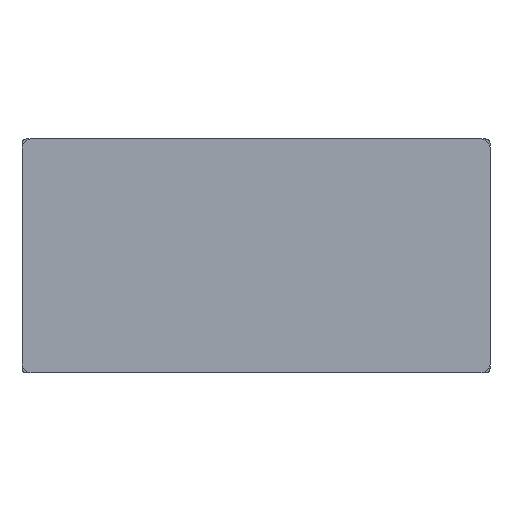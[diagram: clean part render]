
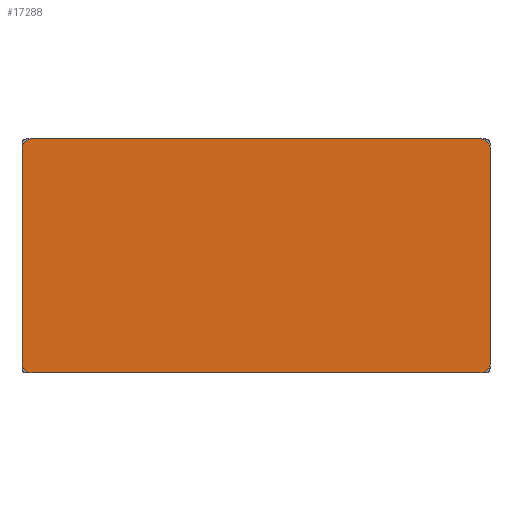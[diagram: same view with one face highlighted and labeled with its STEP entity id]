
A CAD part, front view. The second image highlights one B-rep face of the part: STEP entity #17288.
In plain terms, the highlighted planar face has unit normal (0, -1, 0).
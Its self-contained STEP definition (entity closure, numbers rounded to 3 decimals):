
#297 = CARTESIAN_POINT ( 'NONE',  ( 25.4, -1., -12.7 ) ) ;
#592 = DIRECTION ( 'NONE',  ( 0., 0., 1. ) ) ;
#736 = DIRECTION ( 'NONE',  ( 0., 0., 1. ) ) ;
#899 = AXIS2_PLACEMENT_3D ( 'NONE', #4190, #4064, #592 ) ;
#941 = VECTOR ( 'NONE', #6494, 1000. ) ;
#985 = CARTESIAN_POINT ( 'NONE',  ( -24.4, -1., 11.7 ) ) ;
#1057 = CARTESIAN_POINT ( 'NONE',  ( 25.4, -1., -11.7 ) ) ;
#1681 = CARTESIAN_POINT ( 'NONE',  ( 24.4, -1., -12.7 ) ) ;
#2624 = CARTESIAN_POINT ( 'NONE',  ( 0., -1., 0. ) ) ;
#2649 = VERTEX_POINT ( 'NONE', #23261 ) ;
#3014 = CIRCLE ( 'NONE', #5506, 1. ) ;
#3368 = ORIENTED_EDGE ( 'NONE', *, *, #9474, .T. ) ;
#3465 = VERTEX_POINT ( 'NONE', #6752 ) ;
#4064 = DIRECTION ( 'NONE',  ( 0., -1., 0. ) ) ;
#4190 = CARTESIAN_POINT ( 'NONE',  ( 24.4, -1., -11.7 ) ) ;
#5506 = AXIS2_PLACEMENT_3D ( 'NONE', #16322, #18378, #6530 ) ;
#5572 = ORIENTED_EDGE ( 'NONE', *, *, #22535, .T. ) ;
#5857 = DIRECTION ( 'NONE',  ( -1., 0., 0. ) ) ;
#6091 = VERTEX_POINT ( 'NONE', #1057 ) ;
#6234 = CARTESIAN_POINT ( 'NONE',  ( 25.4, -1., -12.7 ) ) ;
#6494 = DIRECTION ( 'NONE',  ( 0., 0., 1. ) ) ;
#6530 = DIRECTION ( 'NONE',  ( 0., 0., 1. ) ) ;
#6659 = CIRCLE ( 'NONE', #899, 1. ) ;
#6750 = CIRCLE ( 'NONE', #24417, 1. ) ;
#6752 = CARTESIAN_POINT ( 'NONE',  ( -24.4, -1., 12.7 ) ) ;
#6762 = ORIENTED_EDGE ( 'NONE', *, *, #16876, .T. ) ;
#7166 = DIRECTION ( 'NONE',  ( 0., 0., 1. ) ) ;
#7323 = VERTEX_POINT ( 'NONE', #13806 ) ;
#7499 = AXIS2_PLACEMENT_3D ( 'NONE', #985, #22725, #7166 ) ;
#7957 = CARTESIAN_POINT ( 'NONE',  ( -25.4, -1., -12.7 ) ) ;
#8760 = VERTEX_POINT ( 'NONE', #1681 ) ;
#9474 = EDGE_CURVE ( 'NONE', #8760, #6091, #6659, .T. ) ;
#10542 = CARTESIAN_POINT ( 'NONE',  ( 24.4, -1., 11.7 ) ) ;
#10985 = VERTEX_POINT ( 'NONE', #11973 ) ;
#11551 = EDGE_CURVE ( 'NONE', #16359, #3465, #22285, .T. ) ;
#11973 = CARTESIAN_POINT ( 'NONE',  ( 25.4, -1., 11.7 ) ) ;
#12053 = PLANE ( 'NONE',  #22762 ) ;
#13411 = ORIENTED_EDGE ( 'NONE', *, *, #18363, .T. ) ;
#13621 = VERTEX_POINT ( 'NONE', #22199 ) ;
#13806 = CARTESIAN_POINT ( 'NONE',  ( -24.4, -1., -12.7 ) ) ;
#16322 = CARTESIAN_POINT ( 'NONE',  ( -24.4, -1., -11.7 ) ) ;
#16359 = VERTEX_POINT ( 'NONE', #23672 ) ;
#16726 = ORIENTED_EDGE ( 'NONE', *, *, #16762, .T. ) ;
#16762 = EDGE_CURVE ( 'NONE', #13621, #2649, #17612, .T. ) ;
#16876 = EDGE_CURVE ( 'NONE', #2649, #7323, #3014, .T. ) ;
#17038 = EDGE_LOOP ( 'NONE', ( #22021, #3368, #19566, #13411, #17210, #5572, #16726, #6762 ) ) ;
#17210 = ORIENTED_EDGE ( 'NONE', *, *, #11551, .T. ) ;
#17288 = ADVANCED_FACE ( 'NONE', ( #20274 ), #12053, .T. ) ;
#17612 = LINE ( 'NONE', #7957, #25228 ) ;
#17707 = DIRECTION ( 'NONE',  ( 0., 0., -1. ) ) ;
#17814 = VECTOR ( 'NONE', #5857, 1000. ) ;
#17947 = DIRECTION ( 'NONE',  ( 1., 0., 0. ) ) ;
#18363 = EDGE_CURVE ( 'NONE', #10985, #16359, #6750, .T. ) ;
#18378 = DIRECTION ( 'NONE',  ( 0., -1., 0. ) ) ;
#18380 = DIRECTION ( 'NONE',  ( 0., -1., 0. ) ) ;
#18587 = CIRCLE ( 'NONE', #7499, 1. ) ;
#19544 = DIRECTION ( 'NONE',  ( 0., 0., -1. ) ) ;
#19566 = ORIENTED_EDGE ( 'NONE', *, *, #24250, .T. ) ;
#19744 = CARTESIAN_POINT ( 'NONE',  ( 25.4, -1., 12.7 ) ) ;
#20017 = EDGE_CURVE ( 'NONE', #7323, #8760, #21428, .T. ) ;
#20274 = FACE_OUTER_BOUND ( 'NONE', #17038, .T. ) ;
#21428 = LINE ( 'NONE', #297, #22797 ) ;
#22021 = ORIENTED_EDGE ( 'NONE', *, *, #20017, .T. ) ;
#22199 = CARTESIAN_POINT ( 'NONE',  ( -25.4, -1., 11.7 ) ) ;
#22285 = LINE ( 'NONE', #19744, #17814 ) ;
#22535 = EDGE_CURVE ( 'NONE', #3465, #13621, #18587, .T. ) ;
#22725 = DIRECTION ( 'NONE',  ( 0., -1., 0. ) ) ;
#22762 = AXIS2_PLACEMENT_3D ( 'NONE', #2624, #23993, #17707 ) ;
#22797 = VECTOR ( 'NONE', #17947, 1000. ) ;
#23261 = CARTESIAN_POINT ( 'NONE',  ( -25.4, -1., -11.7 ) ) ;
#23672 = CARTESIAN_POINT ( 'NONE',  ( 24.4, -1., 12.7 ) ) ;
#23993 = DIRECTION ( 'NONE',  ( 0., -1., 0. ) ) ;
#24239 = LINE ( 'NONE', #6234, #941 ) ;
#24250 = EDGE_CURVE ( 'NONE', #6091, #10985, #24239, .T. ) ;
#24417 = AXIS2_PLACEMENT_3D ( 'NONE', #10542, #18380, #736 ) ;
#25228 = VECTOR ( 'NONE', #19544, 1000. ) ;
